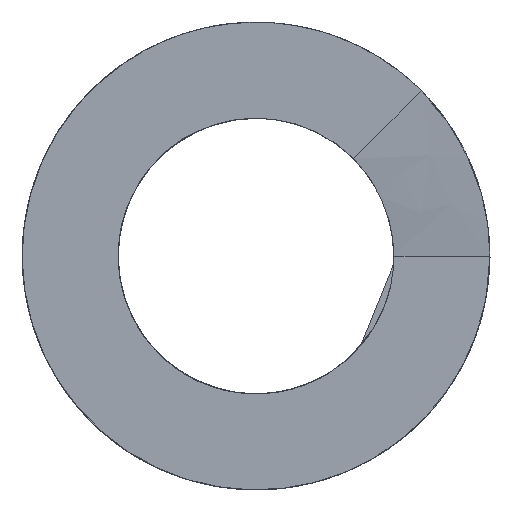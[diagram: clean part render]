
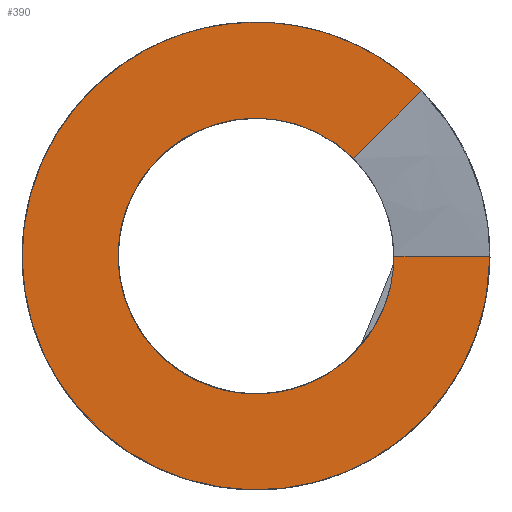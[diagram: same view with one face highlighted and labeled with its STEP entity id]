
A CAD part, front view. The second image highlights one B-rep face of the part: STEP entity #390.
In plain terms, the highlighted planar face has unit normal (0, -1, 0) by its records, which use the part's own axes.
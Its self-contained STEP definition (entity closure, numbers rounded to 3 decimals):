
#36=LINE('',#2271,#44);
#44=VECTOR('',#461,10.);
#74=B_SPLINE_CURVE_WITH_KNOTS('',3,(#1724,#1725,#1726,#1727,#1728,#1729,
#1730,#1731,#1732,#1733,#1734,#1735,#1736,#1737,#1738,#1739,#1740,#1741,
#1742,#1743,#1744,#1745,#1746,#1747,#1748,#1749,#1750,#1751,#1752,#1753,
#1754,#1755,#1756,#1757,#1758,#1759,#1760,#1761,#1762,#1763),
 .UNSPECIFIED.,.F.,.F.,(4,2,2,2,2,2,2,2,2,2,2,2,2,2,2,2,2,2,2,4),(-2.535,
-2.43,-2.325,-2.146,-1.986,
-1.842,-1.715,-1.609,-1.524,
-1.498,-1.479,-1.438,-1.258,
-1.078,-0.898,-0.719,-0.539,
-0.359,-0.18,0.),.UNSPECIFIED.);
#83=B_SPLINE_CURVE_WITH_KNOTS('',3,(#2169,#2170,#2171,#2172,#2173,#2174,
#2175,#2176,#2177,#2178,#2179,#2180,#2181,#2182,#2183,#2184,#2185,#2186,
#2187,#2188,#2189,#2190,#2191,#2192,#2193,#2194,#2195,#2196,#2197,#2198,
#2199,#2200,#2201,#2202,#2203,#2204,#2205,#2206,#2207,#2208,#2209,#2210),
 .UNSPECIFIED.,.F.,.F.,(4,2,2,2,2,2,2,2,2,2,2,2,2,2,2,2,2,2,2,2,4),(-4.299,
-4.057,-3.815,-3.51,-3.205,
-2.9,-2.596,-2.291,-1.986,
-1.837,-1.795,-1.759,-1.715,
-1.658,-1.592,-1.344,-1.141,
-0.918,-0.609,-0.305,0.),
 .UNSPECIFIED.);
#89=B_SPLINE_CURVE_WITH_KNOTS('',3,(#2265,#2266,#2267,#2268,#2269,#2270),
 .UNSPECIFIED.,.F.,.F.,(4,2,4),(-0.32,-0.16,0.),.UNSPECIFIED.);
#114=FACE_OUTER_BOUND('',#140,.T.);
#140=EDGE_LOOP('',(#335,#336,#337,#338));
#171=VERTEX_POINT('',#1445);
#178=VERTEX_POINT('',#1719);
#181=VERTEX_POINT('',#1860);
#186=VERTEX_POINT('',#2168);
#224=EDGE_CURVE('',#178,#171,#74,.T.);
#235=EDGE_CURVE('',#181,#186,#83,.T.);
#242=EDGE_CURVE('',#186,#178,#89,.T.);
#243=EDGE_CURVE('',#171,#181,#36,.T.);
#335=ORIENTED_EDGE('',*,*,#242,.F.);
#336=ORIENTED_EDGE('',*,*,#235,.F.);
#337=ORIENTED_EDGE('',*,*,#243,.F.);
#338=ORIENTED_EDGE('',*,*,#224,.F.);
#372=PLANE('',#429);
#390=ADVANCED_FACE('',(#114),#372,.F.);
#429=AXIS2_PLACEMENT_3D('',#2264,#459,#460);
#459=DIRECTION('center_axis',(0.,1.,0.));
#460=DIRECTION('ref_axis',(0.,0.,1.));
#461=DIRECTION('',(1.,0.,0.));
#1445=CARTESIAN_POINT('',(4.6,0.,0.));
#1719=CARTESIAN_POINT('',(3.253,0.,3.253));
#1724=CARTESIAN_POINT('Ctrl Pts',(3.253,0.,
3.253));
#1725=CARTESIAN_POINT('Ctrl Pts',(3.005,0.,
3.501));
#1726=CARTESIAN_POINT('Ctrl Pts',(2.73,0.,
3.719));
#1727=CARTESIAN_POINT('Ctrl Pts',(2.135,0.,
4.09));
#1728=CARTESIAN_POINT('Ctrl Pts',(1.817,0.,
4.241));
#1729=CARTESIAN_POINT('Ctrl Pts',(0.92,0.,
4.546));
#1730=CARTESIAN_POINT('Ctrl Pts',(0.324,0.,
4.627));
#1731=CARTESIAN_POINT('Ctrl Pts',(-0.806,0.,
4.56));
#1732=CARTESIAN_POINT('Ctrl Pts',(-1.331,0.,
4.436));
#1733=CARTESIAN_POINT('Ctrl Pts',(-2.262,0.,
4.034));
#1734=CARTESIAN_POINT('Ctrl Pts',(-2.67,0.,
3.777));
#1735=CARTESIAN_POINT('Ctrl Pts',(-3.348,0.,
3.183));
#1736=CARTESIAN_POINT('Ctrl Pts',(-3.626,0.,
2.862));
#1737=CARTESIAN_POINT('Ctrl Pts',(-4.048,0.,
2.213));
#1738=CARTESIAN_POINT('Ctrl Pts',(-4.206,0.,
1.895));
#1739=CARTESIAN_POINT('Ctrl Pts',(-4.423,0.,
1.297));
#1740=CARTESIAN_POINT('Ctrl Pts',(-4.494,0.,
1.021));
#1741=CARTESIAN_POINT('Ctrl Pts',(-4.554,0.,
0.656));
#1742=CARTESIAN_POINT('Ctrl Pts',(-4.565,0.,
0.571));
#1743=CARTESIAN_POINT('Ctrl Pts',(-4.581,0.,
0.422));
#1744=CARTESIAN_POINT('Ctrl Pts',(-4.586,0.,
0.358));
#1745=CARTESIAN_POINT('Ctrl Pts',(-4.599,0.,
0.156));
#1746=CARTESIAN_POINT('Ctrl Pts',(-4.602,0.,0.018));
#1747=CARTESIAN_POINT('Ctrl Pts',(-4.583,0.,-0.719));
#1748=CARTESIAN_POINT('Ctrl Pts',(-4.45,0.,-1.309));
#1749=CARTESIAN_POINT('Ctrl Pts',(-3.966,0.,-2.405));
#1750=CARTESIAN_POINT('Ctrl Pts',(-3.62,0.,-2.901));
#1751=CARTESIAN_POINT('Ctrl Pts',(-2.756,0.,-3.731));
#1752=CARTESIAN_POINT('Ctrl Pts',(-2.247,0.,-4.058));
#1753=CARTESIAN_POINT('Ctrl Pts',(-1.133,0.,-4.498));
#1754=CARTESIAN_POINT('Ctrl Pts',(-0.539,0.,-4.607));
#1755=CARTESIAN_POINT('Ctrl Pts',(0.659,0.,-4.592));
#1756=CARTESIAN_POINT('Ctrl Pts',(1.251,0.,-4.467));
#1757=CARTESIAN_POINT('Ctrl Pts',(2.353,0.,-3.998));
#1758=CARTESIAN_POINT('Ctrl Pts',(2.853,0.,-3.658));
#1759=CARTESIAN_POINT('Ctrl Pts',(3.695,0.,-2.805));
#1760=CARTESIAN_POINT('Ctrl Pts',(4.028,0.,-2.301));
#1761=CARTESIAN_POINT('Ctrl Pts',(4.483,0.,-1.192));
#1762=CARTESIAN_POINT('Ctrl Pts',(4.6,0.,-0.599));
#1763=CARTESIAN_POINT('Ctrl Pts',(4.6,0.,0.));
#1860=CARTESIAN_POINT('',(7.8,0.,0.));
#2168=CARTESIAN_POINT('',(5.515,0.,5.515));
#2169=CARTESIAN_POINT('Ctrl Pts',(7.8,0.,0.));
#2170=CARTESIAN_POINT('Ctrl Pts',(7.8,0.,-0.808));
#2171=CARTESIAN_POINT('Ctrl Pts',(7.675,0.,-1.611));
#2172=CARTESIAN_POINT('Ctrl Pts',(7.182,0.,-3.149));
#2173=CARTESIAN_POINT('Ctrl Pts',(6.817,0.,-3.876));
#2174=CARTESIAN_POINT('Ctrl Pts',(5.757,0.,-5.36));
#2175=CARTESIAN_POINT('Ctrl Pts',(5.011,0.,-6.063));
#2176=CARTESIAN_POINT('Ctrl Pts',(3.291,0.,-7.144));
#2177=CARTESIAN_POINT('Ctrl Pts',(2.334,0.,-7.512));
#2178=CARTESIAN_POINT('Ctrl Pts',(0.333,0.,-7.859));
#2179=CARTESIAN_POINT('Ctrl Pts',(-0.692,0.,-7.835));
#2180=CARTESIAN_POINT('Ctrl Pts',(-2.676,0.,-7.397));
#2181=CARTESIAN_POINT('Ctrl Pts',(-3.615,0.,-6.986));
#2182=CARTESIAN_POINT('Ctrl Pts',(-5.284,0.,-5.827));
#2183=CARTESIAN_POINT('Ctrl Pts',(-5.997,0.,-5.09));
#2184=CARTESIAN_POINT('Ctrl Pts',(-7.1,0.,-3.385));
#2185=CARTESIAN_POINT('Ctrl Pts',(-7.48,0.,-2.433));
#2186=CARTESIAN_POINT('Ctrl Pts',(-7.759,0.,-0.944));
#2187=CARTESIAN_POINT('Ctrl Pts',(-7.803,0.,
-0.446));
#2188=CARTESIAN_POINT('Ctrl Pts',(-7.799,0.,
0.192));
#2189=CARTESIAN_POINT('Ctrl Pts',(-7.794,0.,
0.332));
#2190=CARTESIAN_POINT('Ctrl Pts',(-7.779,0.,
0.591));
#2191=CARTESIAN_POINT('Ctrl Pts',(-7.768,0.,
0.711));
#2192=CARTESIAN_POINT('Ctrl Pts',(-7.74,0.,
0.975));
#2193=CARTESIAN_POINT('Ctrl Pts',(-7.721,0.,
1.118));
#2194=CARTESIAN_POINT('Ctrl Pts',(-7.667,0.,
1.448));
#2195=CARTESIAN_POINT('Ctrl Pts',(-7.629,0.,
1.635));
#2196=CARTESIAN_POINT('Ctrl Pts',(-7.533,0.,
2.036));
#2197=CARTESIAN_POINT('Ctrl Pts',(-7.472,0.,
2.25));
#2198=CARTESIAN_POINT('Ctrl Pts',(-7.142,0.,
3.243));
#2199=CARTESIAN_POINT('Ctrl Pts',(-6.76,0.,
3.978));
#2200=CARTESIAN_POINT('Ctrl Pts',(-5.866,0.,
5.185));
#2201=CARTESIAN_POINT('Ctrl Pts',(-5.393,0.,
5.676));
#2202=CARTESIAN_POINT('Ctrl Pts',(-4.281,0.,
6.562));
#2203=CARTESIAN_POINT('Ctrl Pts',(-3.636,0.,
6.941));
#2204=CARTESIAN_POINT('Ctrl Pts',(-1.995,0.,
7.61));
#2205=CARTESIAN_POINT('Ctrl Pts',(-0.976,0.,
7.807));
#2206=CARTESIAN_POINT('Ctrl Pts',(1.067,0.,
7.793));
#2207=CARTESIAN_POINT('Ctrl Pts',(2.071,0.,
7.588));
#2208=CARTESIAN_POINT('Ctrl Pts',(3.946,0.,
6.805));
#2209=CARTESIAN_POINT('Ctrl Pts',(4.797,0.,
6.234));
#2210=CARTESIAN_POINT('Ctrl Pts',(5.515,0.,
5.515));
#2264=CARTESIAN_POINT('Origin',(0.,0.,0.));
#2265=CARTESIAN_POINT('Ctrl Pts',(5.515,0.,
5.515));
#2266=CARTESIAN_POINT('Ctrl Pts',(5.138,0.,
5.138));
#2267=CARTESIAN_POINT('Ctrl Pts',(4.761,0.,
4.761));
#2268=CARTESIAN_POINT('Ctrl Pts',(4.007,0.,
4.007));
#2269=CARTESIAN_POINT('Ctrl Pts',(3.63,0.,
3.63));
#2270=CARTESIAN_POINT('Ctrl Pts',(3.253,0.,
3.253));
#2271=CARTESIAN_POINT('',(3.1,0.,0.));
